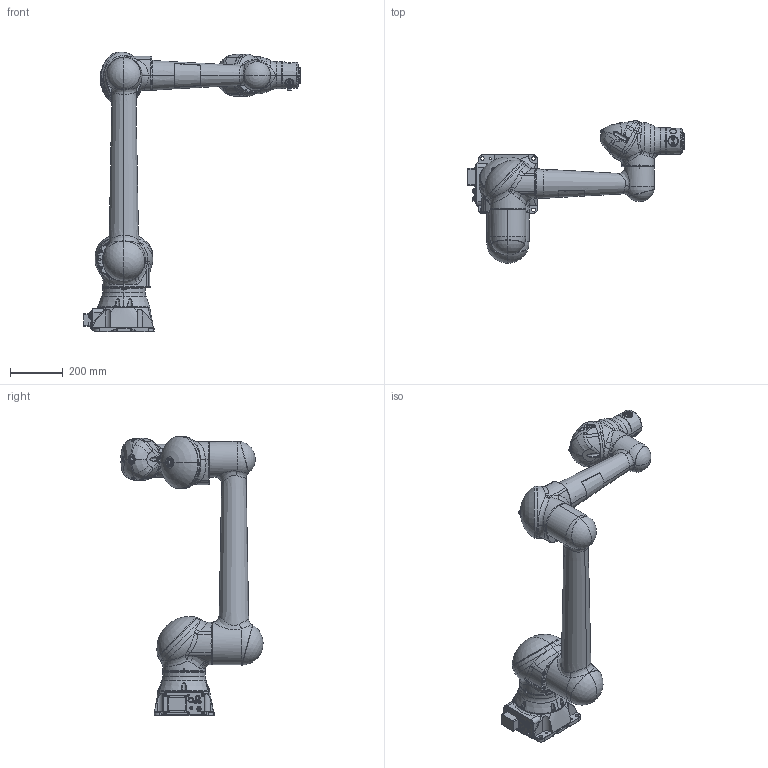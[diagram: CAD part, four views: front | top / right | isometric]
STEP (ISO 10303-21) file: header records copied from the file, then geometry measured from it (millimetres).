
FILE_DESCRIPTION((''),'2;1');
FILE_NAME('ASSY_VIEW_YR-1-06VXCP10-A00_ASM','2021-06-17T',('kbkn19'),('YASKAWA ELECTRIC CORPORATION'),'PRO/ENGINEER BY PARAMETRIC TECHNOLOGY CORPORATION, 2015030','PRO/ENGINEER BY PARAMETRIC TECHNOLOGY CORPORATION, 2015030','');
FILE_SCHEMA(('CONFIG_CONTROL_DESIGN'));
Length unit declared in the file: millimetre
Products named in the file (8): BASE_VIEW_YR-1-06VXCP10-A00; S_VIEW_YR-1-06VXCP10-A00; L_VIEW_YR-1-06VXCP10-A00; U_VIEW_YR-1-06VXCP10-A00; R_VIEW_YR-1-06VXCP10-A00; B_VIEW_YR-1-06VXCP10-A00; T_VIEW_YR-1-06VXCP10-A00; ASSY_VIEW_YR-1-06VXCP10-A00_ASM
Assembly tree (7 placements, depth 2):
  ASSY_VIEW_YR-1-06VXCP10-A00_ASM
    BASE_VIEW_YR-1-06VXCP10-A00
    S_VIEW_YR-1-06VXCP10-A00
    L_VIEW_YR-1-06VXCP10-A00
    U_VIEW_YR-1-06VXCP10-A00
    R_VIEW_YR-1-06VXCP10-A00
    B_VIEW_YR-1-06VXCP10-A00
    T_VIEW_YR-1-06VXCP10-A00
Bounding box: 822.15 x 540.58 x 1063.02 mm (x, y, z)
Volume: 32802823.7 mm3; surface area: 1538769.4 mm2
Topology: 7 solids, 30 shells, 2480 faces, 5978 edges, 3692 vertices
Faces by surface type: cylinder 801, plane 717, bspline 401, cone 309, torus 206, sphere 46
Entity records: 112294 total; most frequent: CARTESIAN_POINT 56083, ORIENTED_EDGE 11812, DIRECTION 11780, EDGE_CURVE 5930, AXIS2_PLACEMENT_3D 4975, VERTEX_POINT 3692, CIRCLE 2873, EDGE_LOOP 2720
